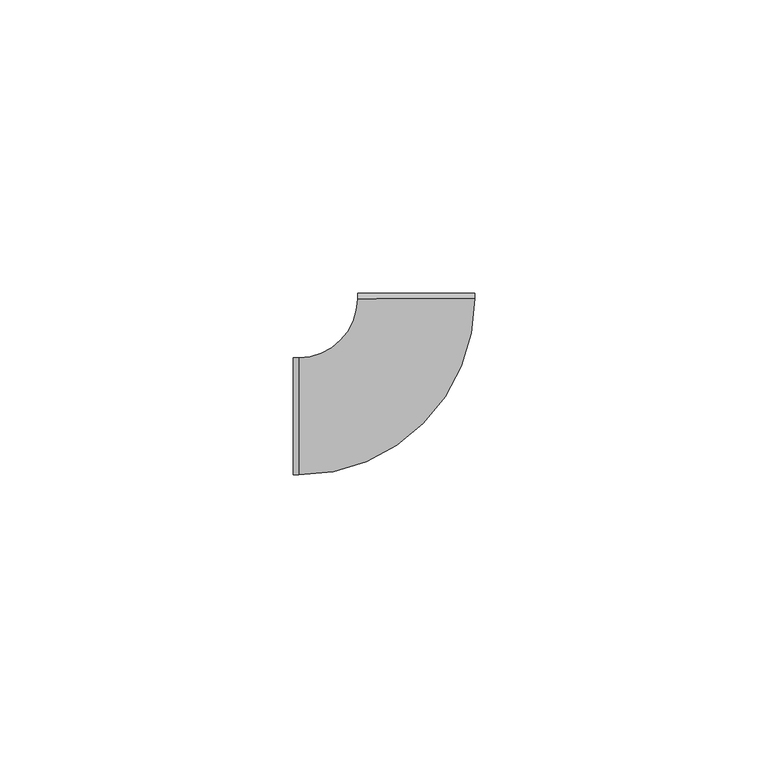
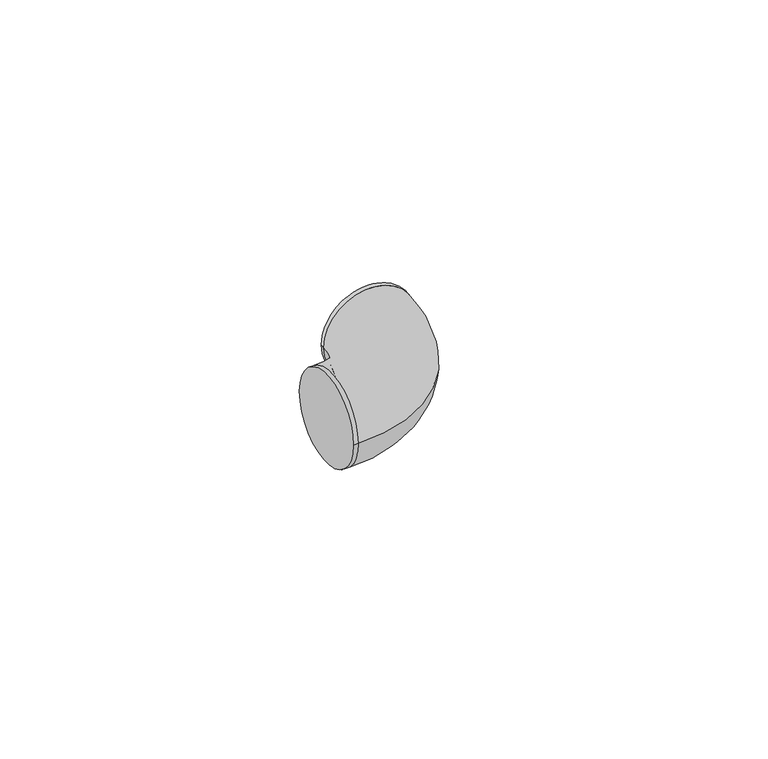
"""IFC4 building model written with IfcOpenShell, lengths in millimetres: cable carrier fitting geometry, ADSK_Поворот_Минимальный размер : Неспецифицируемый."""

from ifc_helpers import new_model, si_unit, point, frame, origin, place, context, project, spatial, circle_curve, ellipse_curve, trimmed, source, transform, mapped, element, save
from ifc_brep_helpers import plane_surface, cylinder_surface, revolved_surface, advanced_brep


def cable_carrier_fitting_ec786a0c(model_context):
    return source(origin(), model_context, "Body", "AdvancedBrep", [
        advanced_brep(
        [(-21.007878, -10.0, 0.0), (-21.007878, 10.0, 0.0), (-20.007878, -10.0, 0.0), (-20.007878, 10.0, 0.0), (-10.0078788, 20.0039382, 0.0), (9.9921197, 20.0118147, 0.0), (9.9917258, 21.0118146, 0.0), (-10.0082726, 21.0039382, 0.0)],
        [
            (0, 1, circle_curve(frame((-21.007878, 0.0, 0.0), z_axis=(-1.0, -4.92260399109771e-12, 0.0), x_axis=(-4.92260399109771e-12, 1.0, 0.0)), 10.0)),
            (1, 0, circle_curve(frame((-21.007878, 0.0, 0.0), z_axis=(-1.0, -4.92260399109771e-12, 0.0), x_axis=(-4.92260399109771e-12, 1.0, 0.0)), 10.0)),
            (0, 2),
            (2, 3, circle_curve(frame((-20.007878, 0.0, 0.0), z_axis=(-1.0, -4.92260399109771e-12, 0.0), x_axis=(-4.92260399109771e-12, 1.0, 0.0)), 10.0)),
            (3, 1),
            (3, 2, circle_curve(frame((-20.007878, 0.0, 0.0), z_axis=(-1.0, -4.92260399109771e-12, 0.0), x_axis=(-4.92260399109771e-12, 1.0, 0.0)), 10.0)),
            (4, 3, circle_curve(frame((-20.007878, 20.0, 0.0), z_axis=(0.0, 0.0, -1.0), x_axis=(0.0, -1.0, 0.0)), 10.0)),
            (2, 5, circle_curve(frame((-20.007878, 20.0, 0.0), z_axis=(0.0, 0.0, 1.0), x_axis=(0.0, -1.0, 0.0)), 30.0)),
            (5, 4, circle_curve(frame((-0.0078796, 20.0078765, 0.0), z_axis=(0.00039382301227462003, -0.9999999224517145, 0.0), x_axis=(-0.9999999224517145, -0.00039382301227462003, 0.0)), 10.0)),
            (4, 5, circle_curve(frame((-0.0078796, 20.0078765, 0.0), z_axis=(0.0003938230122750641, -0.9999999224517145, 0.0), x_axis=(-0.9999999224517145, -0.0003938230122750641, 0.0)), 10.0)),
            (6, 7, circle_curve(frame((-0.0082734, 21.0078764, 0.0), z_axis=(-0.0003938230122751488, 0.9999999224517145, 0.0), x_axis=(-0.9999999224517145, -0.0003938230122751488, 0.0)), 10.0)),
            (7, 6, circle_curve(frame((-0.0082734, 21.0078764, 0.0), z_axis=(-0.0003938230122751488, 0.9999999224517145, 0.0), x_axis=(-0.9999999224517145, -0.0003938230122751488, 0.0)), 10.0)),
            (5, 6),
            (7, 4),
        ],
        [
            plane_surface(frame((-21.007878, 0.0, 0.0), z_axis=(-1.0, -4.92260399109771e-12, 0.0), x_axis=(0.0, 0.0, 1.0))),
            cylinder_surface(frame((-21.007878, 0.0, 0.0), z_axis=(-1.0, -4.92260399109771e-12, 0.0), x_axis=(-4.92260399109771e-12, 1.0, 0.0)), 10.0),
            revolved_surface(trimmed(ellipse_curve(frame((-20.007878, 0.0, 0.0), z_axis=(-1.0, 0.0, 0.0), x_axis=(0.0, 1.0, 0.0)), 10.0, 10.0), [point((-20.007878, -10.0, 0.0))], [point((-20.007878, 10.0, 0.0))], True, "CARTESIAN"), (-20.007878, 20.0, 0.0), (0.0, 0.0, 1.0)),
            revolved_surface(trimmed(ellipse_curve(frame((-20.007878, 0.0, 0.0), z_axis=(-1.0, 0.0, 0.0), x_axis=(0.0, 1.0, 0.0)), 10.0, 10.0), [point((-20.007878, 10.0, 0.0))], [point((-20.007878, -10.0, 0.0))], True, "CARTESIAN"), (-20.007878, 20.0, 0.0), (0.0, 0.0, 1.0)),
            plane_surface(frame((-0.0082734, 21.0078764, 0.0), z_axis=(-0.0003938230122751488, 0.9999999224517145, 0.0), x_axis=(0.0, 0.0, 1.0))),
            cylinder_surface(frame((-0.0078796, 20.0078765, 0.0), z_axis=(0.0003938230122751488, -0.9999999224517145, 0.0), x_axis=(-0.9999999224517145, -0.0003938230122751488, 0.0)), 10.0),
        ],
        [
            (0, [[1, 2]]),
            (1, [[-1, 3, 4, 5]]),
            (1, [[-2, -5, 6, -3]]),
            (2, [[7, -4, 8, 9]]),
            (3, [[-8, -6, -7, 10]]),
            (4, [[11, 12]]),
            (5, [[-9, 13, -12, 14]]),
            (5, [[-10, -14, -11, -13]]),
        ],
    ),
    ])


if __name__ == "__main__":
    model = new_model("IFC4")
    model_context = context("Model", 3, world=origin())
    ifc_project = project(units=[si_unit("LENGTHUNIT", "METRE", prefix="MILLI")], contexts=[model_context])
    site = spatial("IfcSite", under=ifc_project)
    building = spatial("IfcBuilding", under=site)
    placement = place(None, origin())
    cable_carrier_fitting_shape = cable_carrier_fitting_ec786a0c(model_context)
    element("IfcCableCarrierFitting", 1, ObjectType="ADSK_Поворот_Минимальный размер : Неспецифицируемый", at=placement, inside=building, context=model_context, shape_type="MappedRepresentation", body=[
        mapped(cable_carrier_fitting_shape, transform((0.0, 0.0, 0.0), x_axis=(1.0, 0.0, 0.0), y_axis=(0.0, 1.0, 0.0), z_axis=(0.0, 0.0, 1.0))),
    ])
    save(model, "model.ifc")
